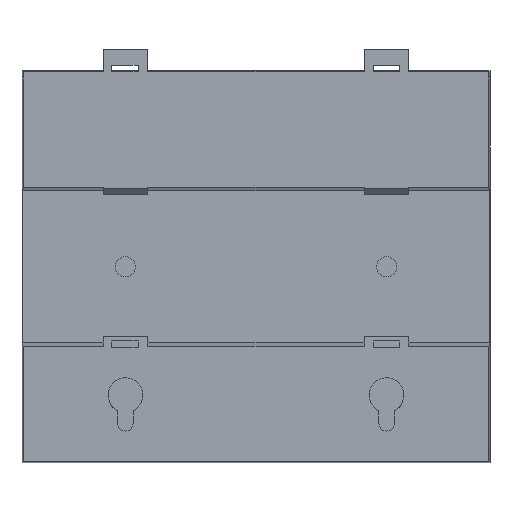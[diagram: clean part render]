
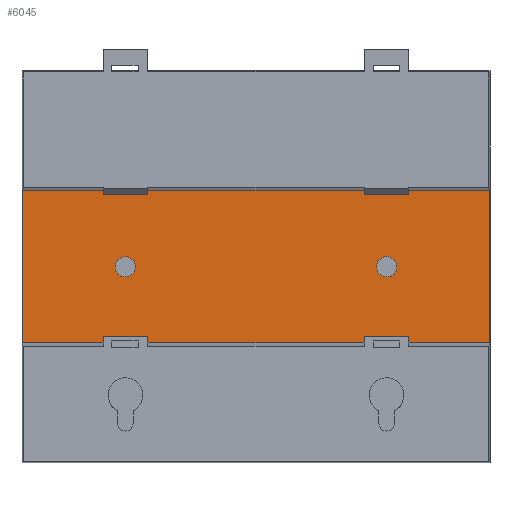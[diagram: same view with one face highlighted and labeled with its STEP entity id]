
A CAD part, front view. The second image highlights one B-rep face of the part: STEP entity #6045.
In plain terms, the highlighted planar face has unit normal (0, -1, 0).
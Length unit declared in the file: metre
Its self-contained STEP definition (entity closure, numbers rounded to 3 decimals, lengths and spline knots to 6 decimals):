
#535=CIRCLE('',#7125,0.0023);
#536=CIRCLE('',#7126,0.0023);
#703=ORIENTED_EDGE('',*,*,#2375,.T.);
#704=ORIENTED_EDGE('',*,*,#2392,.F.);
#705=ORIENTED_EDGE('',*,*,#2361,.F.);
#706=ORIENTED_EDGE('',*,*,#2379,.T.);
#707=ORIENTED_EDGE('',*,*,#2393,.F.);
#708=ORIENTED_EDGE('',*,*,#2394,.F.);
#2361=EDGE_CURVE('',#3214,#3215,#3808,.F.);
#2375=EDGE_CURVE('',#3220,#3221,#3822,.T.);
#2379=EDGE_CURVE('',#3214,#3220,#3826,.T.);
#2392=EDGE_CURVE('',#3215,#3221,#3839,.T.);
#2393=EDGE_CURVE('',#3232,#3232,#535,.F.);
#2394=EDGE_CURVE('',#3233,#3233,#536,.F.);
#3214=VERTEX_POINT('',#8864);
#3215=VERTEX_POINT('',#8866);
#3220=VERTEX_POINT('',#8884);
#3221=VERTEX_POINT('',#8887);
#3232=VERTEX_POINT('',#8921);
#3233=VERTEX_POINT('',#8923);
#3808=LINE('',#8865,#4383);
#3822=LINE('',#8888,#4397);
#3826=LINE('',#8896,#4401);
#3839=LINE('',#8918,#4414);
#4383=VECTOR('',#7553,1.);
#4397=VECTOR('',#7571,1.);
#4401=VECTOR('',#7579,1.);
#4414=VECTOR('',#7594,1.);
#4890=EDGE_LOOP('',(#703,#704,#705,#706));
#4891=EDGE_LOOP('',(#707));
#4892=EDGE_LOOP('',(#708));
#5357=FACE_BOUND('',#4890,.T.);
#5358=FACE_BOUND('',#4891,.T.);
#5359=FACE_BOUND('',#4892,.T.);
#5818=PLANE('',#7124);
#6045=ADVANCED_FACE('',(#5357,#5358,#5359),#5818,.F.);
#7124=AXIS2_PLACEMENT_3D('',#8919,#7595,#7596);
#7125=AXIS2_PLACEMENT_3D('',#8920,#7597,#7598);
#7126=AXIS2_PLACEMENT_3D('',#8922,#7599,#7600);
#7553=DIRECTION('',(0.,0.,1.));
#7571=DIRECTION('',(0.,0.,-1.));
#7579=DIRECTION('',(-1.,0.,0.));
#7594=DIRECTION('',(-1.,0.,0.));
#7595=DIRECTION('',(0.,1.,0.));
#7596=DIRECTION('',(0.,0.,1.));
#7597=DIRECTION('',(0.,1.,0.));
#7598=DIRECTION('',(0.,0.,1.));
#7599=DIRECTION('',(0.,1.,0.));
#7600=DIRECTION('',(0.,0.,1.));
#8864=CARTESIAN_POINT('',(0.053579,-0.0098,0.0175));
#8865=CARTESIAN_POINT('',(0.053579,-0.0098,-0.045));
#8866=CARTESIAN_POINT('',(0.053579,-0.0098,-0.0175));
#8884=CARTESIAN_POINT('',(-0.053579,-0.0098,0.0175));
#8887=CARTESIAN_POINT('',(-0.053579,-0.0098,-0.0175));
#8888=CARTESIAN_POINT('',(-0.053579,-0.0098,-0.045));
#8896=CARTESIAN_POINT('',(0.155342,-0.0098,0.0175));
#8918=CARTESIAN_POINT('',(0.155342,-0.0098,-0.0175));
#8919=CARTESIAN_POINT('',(0.155342,-0.0098,0.));
#8920=CARTESIAN_POINT('',(-0.03,-0.0098,0.));
#8921=CARTESIAN_POINT('',(-0.03,-0.0098,0.0023));
#8922=CARTESIAN_POINT('',(0.03,-0.0098,0.));
#8923=CARTESIAN_POINT('',(0.03,-0.0098,0.0023));
